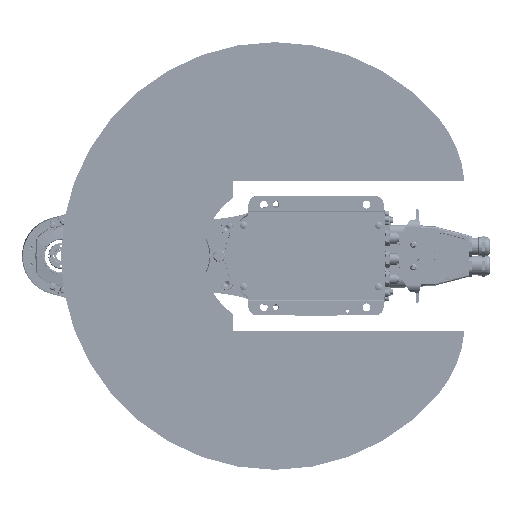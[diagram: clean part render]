
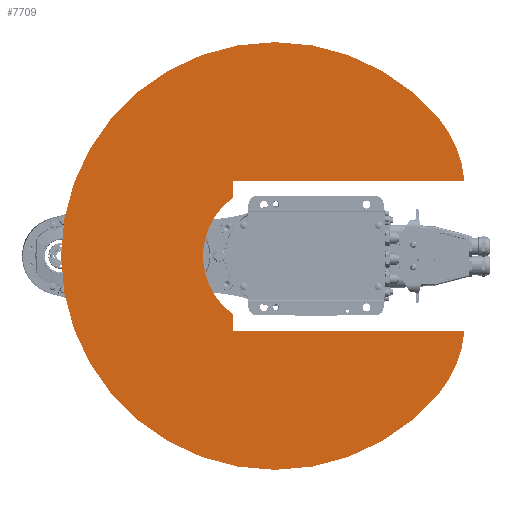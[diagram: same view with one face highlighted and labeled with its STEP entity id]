
A CAD part, front view. The second image highlights one B-rep face of the part: STEP entity #7709.
In plain terms, the highlighted planar face has unit normal (0, -1, 0).
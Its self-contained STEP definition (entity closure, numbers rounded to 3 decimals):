
#7709 = ADVANCED_FACE( '', ( #18116 ), #18117, .F. );
#18116 = FACE_OUTER_BOUND( '', #32079, .T. );
#18117 = PLANE( '', #32080 );
#32079 = EDGE_LOOP( '', ( #55307, #55308, #55309, #55310, #55311, #55312, #55313, #55314 ) );
#32080 = AXIS2_PLACEMENT_3D( '', #55315, #55316, #55317 );
#55307 = ORIENTED_EDGE( '', *, *, #81058, .T. );
#55308 = ORIENTED_EDGE( '', *, *, #81059, .F. );
#55309 = ORIENTED_EDGE( '', *, *, #81060, .F. );
#55310 = ORIENTED_EDGE( '', *, *, #77418, .F. );
#55311 = ORIENTED_EDGE( '', *, *, #78311, .T. );
#55312 = ORIENTED_EDGE( '', *, *, #78589, .T. );
#55313 = ORIENTED_EDGE( '', *, *, #81061, .T. );
#55314 = ORIENTED_EDGE( '', *, *, #81062, .T. );
#55315 = CARTESIAN_POINT( '', ( 38.567, 0., 45.963 ) );
#55316 = DIRECTION( '', ( 0., 1., 0. ) );
#55317 = DIRECTION( '', ( 0., 0., 1. ) );
#77418 = EDGE_CURVE( '', #93171, #93174, #93175, .T. );
#78311 = EDGE_CURVE( '', #93171, #94589, #94591, .T. );
#78589 = EDGE_CURVE( '', #94589, #95017, #95018, .T. );
#81058 = EDGE_CURVE( '', #98740, #98741, #98742, .T. );
#81059 = EDGE_CURVE( '', #98743, #98741, #98744, .T. );
#81060 = EDGE_CURVE( '', #93174, #98743, #98745, .T. );
#81061 = EDGE_CURVE( '', #95017, #98746, #98747, .T. );
#81062 = EDGE_CURVE( '', #98746, #98740, #98748, .T. );
#93171 = VERTEX_POINT( '', #117174 );
#93174 = VERTEX_POINT( '', #117178 );
#93175 = CIRCLE( '', #117179, 130. );
#94589 = VERTEX_POINT( '', #119509 );
#94591 = LINE( '', #119512, #119513 );
#95017 = VERTEX_POINT( '', #120163 );
#95018 = LINE( '', #120164, #120165 );
#98740 = VERTEX_POINT( '', #126686 );
#98741 = VERTEX_POINT( '', #126687 );
#98742 = LINE( '', #126688, #126689 );
#98743 = VERTEX_POINT( '', #126690 );
#98744 = CIRCLE( '', #126691, 130. );
#98745 = CIRCLE( '', #126692, 250. );
#98746 = VERTEX_POINT( '', #126693 );
#98747 = CIRCLE( '', #126694, 84. );
#98748 = LINE( '', #126695, #126696 );
#117174 = CARTESIAN_POINT( '', ( 88., 0., 221.47 ) );
#117178 = CARTESIAN_POINT( '', ( 160.697, 0., 191.511 ) );
#117179 = AXIS2_PLACEMENT_3D( '', #140983, #140984, #140985 );
#119509 = CARTESIAN_POINT( '', ( 88., 0., -49. ) );
#119512 = CARTESIAN_POINT( '', ( 88., 0., 351. ) );
#119513 = VECTOR( '', #141986, 1000. );
#120163 = CARTESIAN_POINT( '', ( 68.228, 0., -49. ) );
#120164 = CARTESIAN_POINT( '', ( 88., 0., -49. ) );
#120165 = VECTOR( '', #142294, 1000. );
#126686 = CARTESIAN_POINT( '', ( -88., 0., -49. ) );
#126687 = CARTESIAN_POINT( '', ( -88., 0., 221.47 ) );
#126688 = CARTESIAN_POINT( '', ( -88., 0., -49. ) );
#126689 = VECTOR( '', #144828, 1000. );
#126690 = CARTESIAN_POINT( '', ( -160.697, 0., 191.511 ) );
#126691 = AXIS2_PLACEMENT_3D( '', #144829, #144830, #144831 );
#126692 = AXIS2_PLACEMENT_3D( '', #144832, #144833, #144834 );
#126693 = CARTESIAN_POINT( '', ( -68.228, 0., -49. ) );
#126694 = AXIS2_PLACEMENT_3D( '', #144835, #144836, #144837 );
#126695 = CARTESIAN_POINT( '', ( 88., 0., -49. ) );
#126696 = VECTOR( '', #144838, 1000. );
#140983 = CARTESIAN_POINT( '', ( 77.135, 0., 91.925 ) );
#140984 = DIRECTION( '', ( 0., 1., 0. ) );
#140985 = DIRECTION( '', ( 1., 0., 0. ) );
#141986 = DIRECTION( '', ( 0., 0., -1. ) );
#142294 = DIRECTION( '', ( -1., 0., 0. ) );
#144828 = DIRECTION( '', ( 0., 0., 1. ) );
#144829 = CARTESIAN_POINT( '', ( -77.135, 0., 91.925 ) );
#144830 = DIRECTION( '', ( 0., 1., 0. ) );
#144831 = DIRECTION( '', ( 1., 0., 0. ) );
#144832 = CARTESIAN_POINT( '', ( 0., 0., 0. ) );
#144833 = DIRECTION( '', ( 0., 1., 0. ) );
#144834 = DIRECTION( '', ( 1., 0., 0. ) );
#144835 = CARTESIAN_POINT( '', ( 0., 0., 0. ) );
#144836 = DIRECTION( '', ( 0., 1., 0. ) );
#144837 = DIRECTION( '', ( 1., 0., 0. ) );
#144838 = DIRECTION( '', ( -1., 0., 0. ) );
